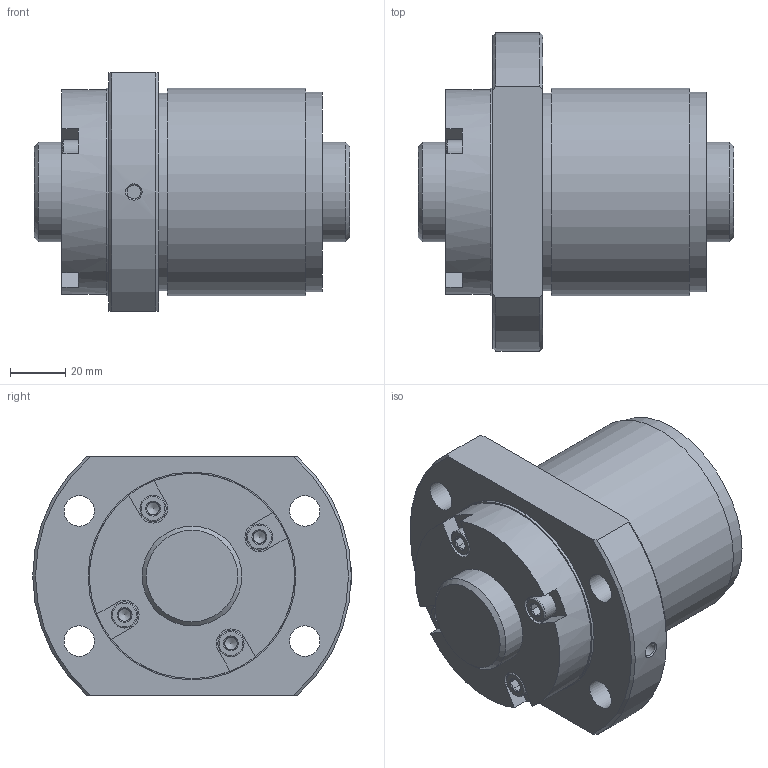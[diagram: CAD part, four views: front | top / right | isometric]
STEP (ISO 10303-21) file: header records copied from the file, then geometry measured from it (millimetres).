
FILE_DESCRIPTION(/* description */ ('STEP AP203'),/* implementation_level */ '2;1');
FILE_NAME(/* name */ 'BLK3624-5.6G1+114LC3_0_1300',/* time_stamp */ '2025-01-16T07:05:04+01:00',/* author */ ('License CC BY-ND 4.0'),/* organization */ ('CADENAS'),/* preprocessor_version */ 'ST-DEVELOPER v19.3',/* originating_system */ 'PARTsolutions',/* authorisation */ ' ');
FILE_SCHEMA (('CONFIG_CONTROL_DESIGN'));
Length unit declared in the file: millimetre
Products named in the file (3): BLK3624-5.6G1+114LC3_0_1300; 0130BLK3624-5.60Shaft; RR0130BLK3624-5.6Nut
Assembly tree (2 placements, depth 2):
  BLK3624-5.6G1+114LC3_0_1300
    0130BLK3624-5.60Shaft
    RR0130BLK3624-5.6Nut
Bounding box: 114 x 115 x 86 mm (x, y, z)
Volume: 500628 mm3; surface area: 69490.9 mm2
Topology: 2 solids, 2 shells, 121 faces, 287 edges, 180 vertices
Faces by surface type: plane 76, cylinder 26, cone 15, torus 4
Full cylindrical faces by diameter (mm): 4.5 x4, 4.917 x1, 9.45 x4, 11 x4, 36 x2, 71.25 x1, 72 x1, 74 x1, 75 x2
Entity records: 3336 total; most frequent: CARTESIAN_POINT 662, DIRECTION 546, ORIENTED_EDGE 476, EDGE_CURVE 238, AXIS2_PLACEMENT_3D 217, FACE_BOUND 180, EDGE_LOOP 176, VERTEX_POINT 170
